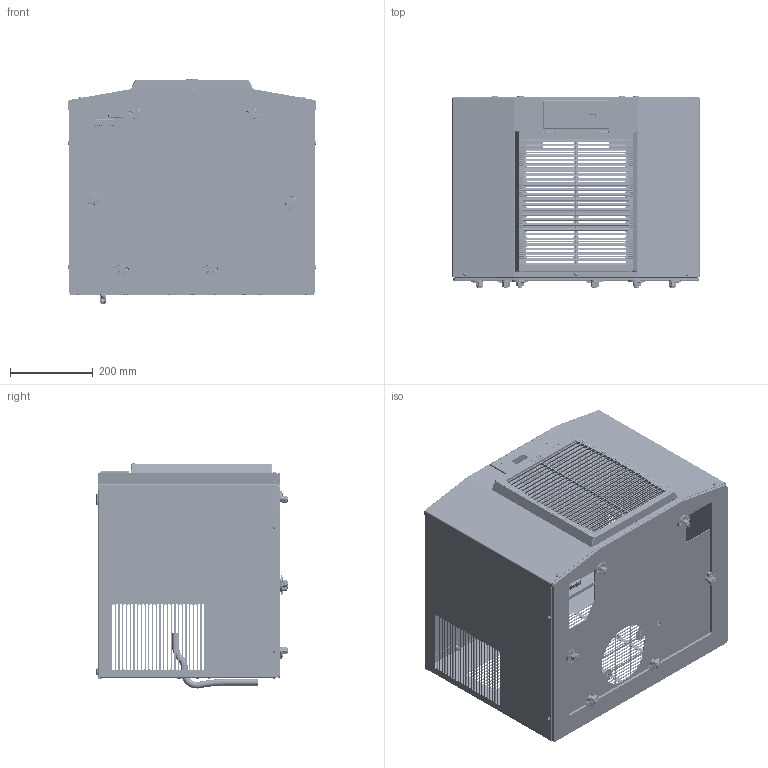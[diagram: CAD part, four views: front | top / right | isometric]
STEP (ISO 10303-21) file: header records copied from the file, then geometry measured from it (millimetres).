
FILE_DESCRIPTION (( 'STEP AP203' ), '1' );
FILE_NAME ('DTT_6301-6401_20150612.STEP', '2015-06-12T13:29:03', ( '' ), ( '' ), 'SwSTEP 2.0', 'SolidWorks 2012', '' );
FILE_SCHEMA (( 'CONFIG_CONTROL_DESIGN' ));
Products named in the file (39): DTT_6301-6401_20150612; PK0089AR_Vorreiber_kpl; Hex Bolt GradeB_Pfannenberg GmbH_ISO 4015 - M6 x 35 x 18-N; Federringe - DIN 127_020200130  Federring B6,0 St zn  DIN 127; 30178-026; 30178-083; 30378-020_002002891; 020142110_Flachstecker_; 020500670 PVC-Schlauch in 30378-101; 11189-405; 11189-639; Blechschraube mit Linsenkopf und Torx-Antrieb - DIN 7981_020100___ Schraube 4.2x13 St zn ohne Spitze  DIN 7981; Spax Schrauben Torx_4,0 x 20mm; Blindniet_020140250  4.8x10.3 K15.6; Blindniet_020140201  4.0x11 K12 Maxi; Flachkopfschraube mit Torx - ISO 7045 TX_ISO 7045 TX M8 x 16 vz; 30378-215_000710807 DTT 6401 400_460V 3~ PCCC; 025416832 WAGO  769-608_002-000; 025416831 WAGO  769-609_002-000; 30286-420; 30286-359; 30162-013; 30286-357; 30367-140; 30367-012_085000417 Frontfolie Premium Bedieneinheit; 000721011 Gehäuse  Bedieneinheit; 30378-108; 30378-024; 30378-024_002002887; 30378-201_000710779 DTT 6401 400-460V; 30178-075; 30378-212_000710755 Bodengruppe DTT 6401 400_460V ; Blindnietmutter  Sechskant offen_020140042 M8x16.5 6kt offen St; 30378-012_Bodenblech mit Blindnietmuttern_Schweiábolzen; Schweiﾟbolzen EN ISO 13918_020140019 Schwei畸olzen 5x10 St cu Z］dspitze EN ISO 13918; Blindnietmutter  Sechskant geschlossen_020140031 M6 6kt geschlossen St; Blindnietmutter  Sechskant offen_020140030 M6x14,5 6kt offen St; 30378-012
Assembly tree (77 placements, depth 5):
  DTT_6301-6401_20150612
    30378-201_000710779 DTT 6401 400-460V
      30378-212_000710755 Bodengruppe DTT 6401 400_460V 
        30378-012_Bodenblech mit Blindnietmuttern_Schweiábolzen
          30378-012
          Blindnietmutter  Sechskant offen_020140030 M6x14,5 6kt offen St  x6
          Blindnietmutter  Sechskant geschlossen_020140031 M6 6kt geschlossen St  x6
          Schweiﾟbolzen EN ISO 13918_020140019 Schwei畸olzen 5x10 St cu Z］dspitze EN ISO 13918  x2
        Blindnietmutter  Sechskant offen_020140042 M8x16.5 6kt offen St  x3
      30178-075
    30378-108
      30378-024
        30378-024_002002887
    30367-140
      000721011 Gehäuse  Bedieneinheit
      30367-012_085000417 Frontfolie Premium Bedieneinheit
    30286-420
      30286-359
        30286-357
        30162-013
    30378-215_000710807 DTT 6401 400_460V 3~ PCCC
      025416831 WAGO  769-609_002-000
      025416832 WAGO  769-608_002-000
    Flachkopfschraube mit Torx - ISO 7045 TX_ISO 7045 TX M8 x 16 vz  x4
    Blindnietmutter  Sechskant offen_020140042 M8x16.5 6kt offen St  x2
    Blindniet_020140201  4.0x11 K12 Maxi  x7
    Blindniet_020140250  4.8x10.3 K15.6  x2
    Spax Schrauben Torx_4,0 x 20mm  x3
    Blechschraube mit Linsenkopf und Torx-Antrieb - DIN 7981_020100___ Schraube 4.2x13 St zn ohne Spitze  DIN 7981  x7
    11189-639  x2
    11189-405
    020500670 PVC-Schlauch in 30378-101
    30378-020_002002891
      30378-020_002002891
      020142110_Flachstecker_
    30178-083
    PK0089AR_Vorreiber_kpl  x6
      30178-026
      Federringe - DIN 127_020200130  Federring B6,0 St zn  DIN 127
      Hex Bolt GradeB_Pfannenberg GmbH_ISO 4015 - M6 x 35 x 18-N
Bounding box: 601.05 x 465.3 x 544.28 mm (x, y, z)
Volume: 2795479.3 mm3; surface area: 3495290.1 mm2
Topology: 77 solids, 77 shells, 10522 faces, 28288 edges, 18189 vertices
Faces by surface type: plane 5968, cylinder 2673, bspline 907, cone 612, sphere 199, torus 163
Entity records: 307105 total; most frequent: CARTESIAN_POINT 94005, ORIENTED_EDGE 45984, DIRECTION 38872, EDGE_CURVE 22992, VECTOR 15720, LINE 15720, VERTEX_POINT 14960, AXIS2_PLACEMENT_3D 11576
